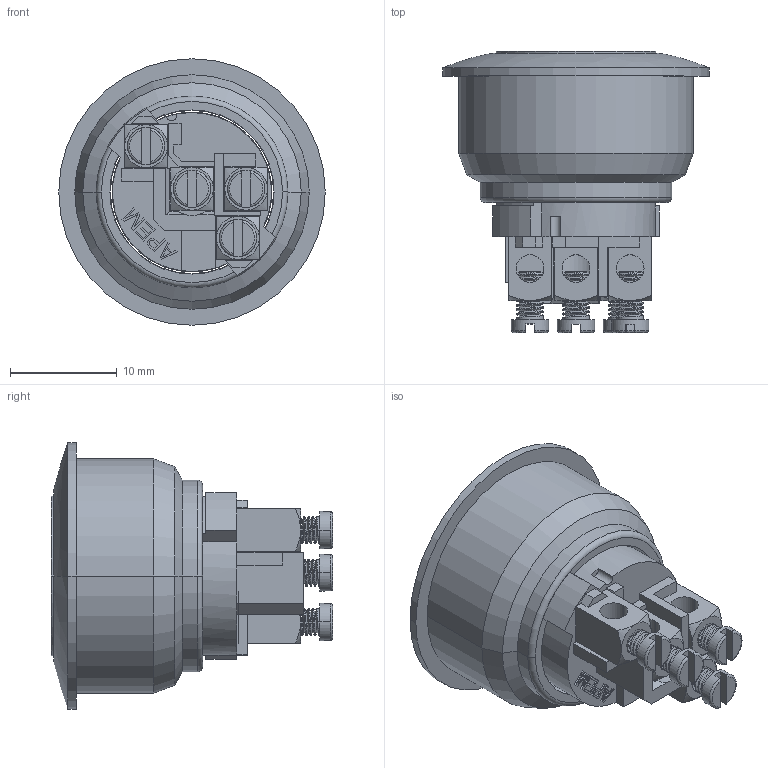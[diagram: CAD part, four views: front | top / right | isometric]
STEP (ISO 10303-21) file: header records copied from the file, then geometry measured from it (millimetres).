
FILE_DESCRIPTION((''),'2;1');
FILE_NAME('AV3SLD9XXX002','2012-02-16T',('jlgachon'),(''),'PRO/ENGINEER BY PARAMETRIC TECHNOLOGY CORPORATION, 2010280','PRO/ENGINEER BY PARAMETRIC TECHNOLOGY CORPORATION, 2010280','');
FILE_SCHEMA(('CONFIG_CONTROL_DESIGN'));
Length unit declared in the file: millimetre
Products named in the file (1): AV3SLD9XXX002
Bounding box: 25 x 26.38 x 25 mm (x, y, z)
Surface area: 3344.9 mm2 (no closed solid volume)
Topology: 0 solids, 18 shells, 286 faces, 1043 edges, 766 vertices
Faces by surface type: cylinder 115, plane 103, bspline 30, cone 28, torus 10
Entity records: 22837 total; most frequent: CARTESIAN_POINT 14743, ORIENTED_EDGE 1687, DIRECTION 1349, EDGE_CURVE 1043, VERTEX_POINT 766, VECTOR 525, LINE 525, AXIS2_PLACEMENT_3D 412
